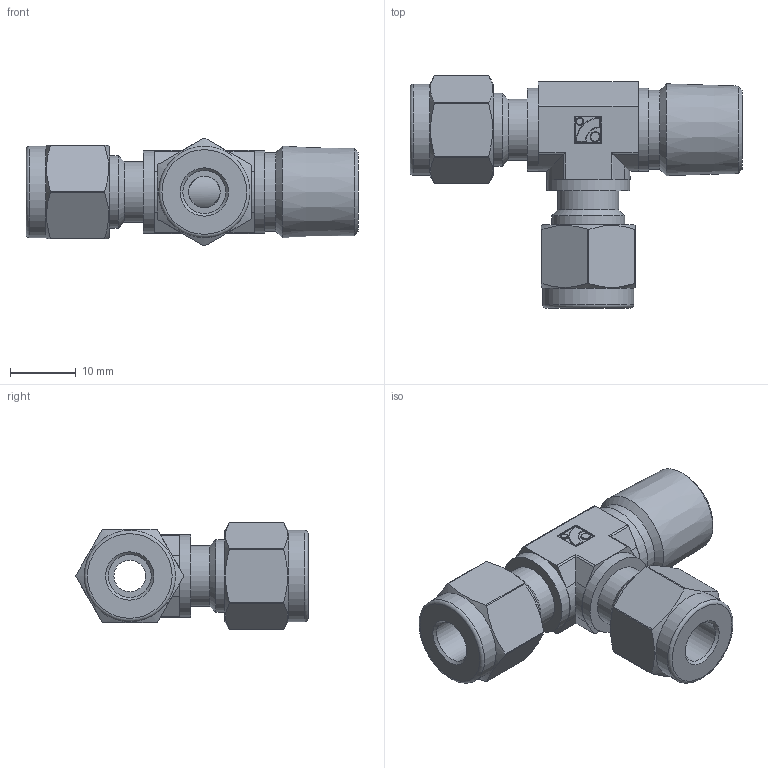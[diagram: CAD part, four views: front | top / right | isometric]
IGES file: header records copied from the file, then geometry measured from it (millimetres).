
Global section: file name: No Iges File Name specified; native system: Autodesk Inventor 2012; preprocessor: AutoDesk Inventor Iges Exporter R2012; author: 硅己绕,, ; organization: 11; date: 20150815.154800; units: millimetre
Bounding box: 50.54 x 35.34 x 16.4 mm (x, y, z)
Volume: 8266.3 mm3; surface area: 5000.5 mm2
Topology: 1 solids, 1 shells, 151 faces, 342 edges, 205 vertices
Faces by surface type: cylinder 51, plane 47, revolution 30, torus 10, cone 9, sphere 4
Full cylindrical faces by diameter (mm): 1.08 x1, 1.44 x1, 9.3 x2, 11.112 x2, 12 x1, 12.6 x3, 13.9 x2
